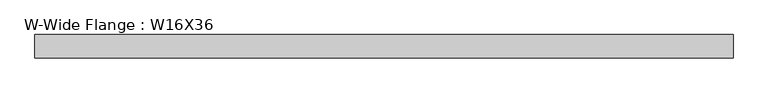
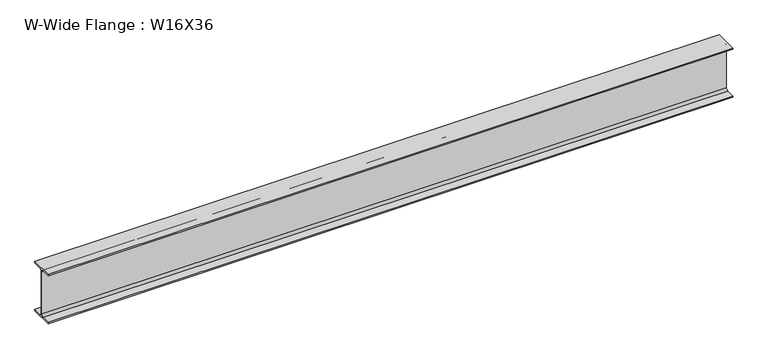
"""IFC4 building model written with IfcOpenShell, lengths in millimetres: beam geometry, W-Wide Flange : W16X36."""

from ifc_helpers import new_model, si_unit, point, frame, frame_2d, origin, place, context, project, spatial, polyline, circle_curve, trimmed, segment, composite_curve, outline, extrude, source, transform, mapped, element, save


def w_wide_flange_w16x36_319e22e6(model_context):
    return source(origin(), model_context, "Body", "SweptSolid", [
        extrude(outline(composite_curve([segment(polyline([(88.773, -191.008), (88.773, -201.93), (-88.773, -201.93), (-88.773, -191.008), (-21.3995, -191.008)]), True, "CONTINUOUS"), segment(trimmed(circle_curve(frame_2d((-21.3995, -173.355)), 17.653), [point((-21.3995, -191.008))], [point((-3.7465, -173.355))], True, "CARTESIAN"), True, "CONTINUOUS"), segment(polyline([(-3.7465, -173.355), (-3.7465, 173.355)]), True, "CONTINUOUS"), segment(trimmed(circle_curve(frame_2d((-21.3995, 173.355)), 17.653), [point((-3.7465, 173.355))], [point((-21.3995, 191.008))], True, "CARTESIAN"), True, "CONTINUOUS"), segment(polyline([(-21.3995, 191.008), (-88.773, 191.008), (-88.773, 201.93), (88.773, 201.93), (88.773, 191.008), (21.3995, 191.008)]), True, "CONTINUOUS"), segment(trimmed(circle_curve(frame_2d((21.3995, 173.355)), 17.653), [point((21.3995, 191.008))], [point((3.7465, 173.355))], True, "CARTESIAN"), True, "CONTINUOUS"), segment(polyline([(3.7465, 173.355), (3.7465, -173.355)]), True, "CONTINUOUS"), segment(trimmed(circle_curve(frame_2d((21.3995, -173.355)), 17.653), [point((3.7465, -173.355))], [point((21.3995, -191.008))], True, "CARTESIAN"), True, "CONTINUOUS"), segment(polyline([(21.3995, -191.008), (88.773, -191.008)]), True, "CONTINUOUS")], self_intersect=False)), frame((-2659.495573, 0.0, 0.0), z_axis=(1.0, 0.0, 0.0), x_axis=(0.0, 1.0, 0.0)), (0.0, 0.0, 1.0), 5308.854),
    ])


if __name__ == "__main__":
    model = new_model("IFC4")
    model_context = context("Model", 3, world=origin())
    ifc_project = project(units=[si_unit("LENGTHUNIT", "METRE", prefix="MILLI")], contexts=[model_context])
    site = spatial("IfcSite", under=ifc_project)
    building = spatial("IfcBuilding", under=site)
    placement = place(None, origin())
    w_wide_flange_w16x36_shape = w_wide_flange_w16x36_319e22e6(model_context)
    element("IfcBeam", 1, ObjectType="W-Wide Flange : W16X36", at=placement, inside=building, context=model_context, shape_type="MappedRepresentation", body=[
        mapped(w_wide_flange_w16x36_shape, transform((0.0, 0.0, 0.0), x_axis=(1.0, 0.0, 0.0), y_axis=(0.0, 1.0, 0.0), z_axis=(0.0, 0.0, 1.0))),
    ])
    save(model, "model.ifc")
